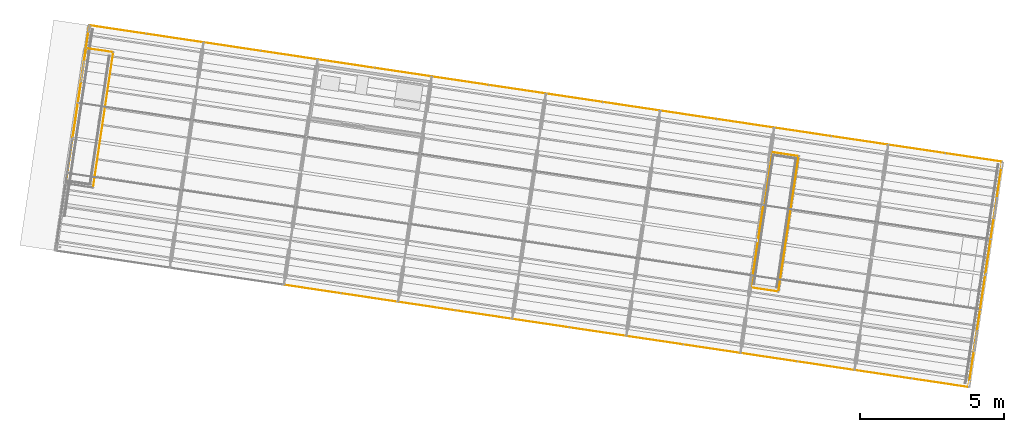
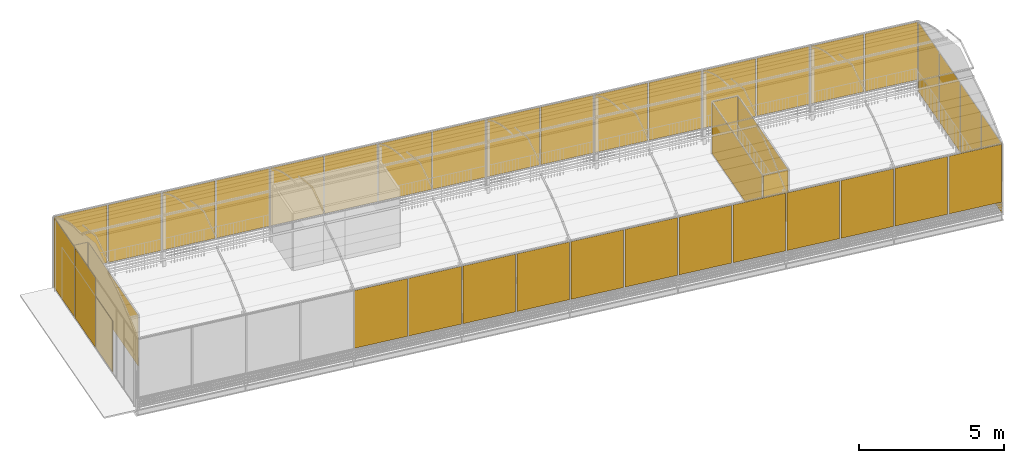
# One storey, part 29 of 34: 39 windows, 2 doors.
"""IFC4 building model written with IfcOpenShell, lengths in metres."""

from ifc_helpers import new_model, si_unit, direction, frame, origin_with_axes, place, context, subcontext, project, spatial, polyline, outline, extrude, material, element, save


model = new_model("IFC4")

# Units and contexts
model_context = context("Model", 3, precision=1e-05, world=origin_with_axes(), true_north=direction((0.0, 1.0)))
body_context = subcontext(model_context, "Body", "Model", "MODEL_VIEW")
ifc_project = project(units=[si_unit("AREAUNIT", "SQUARE_METRE"), si_unit("VOLUMEUNIT", "CUBIC_METRE"), si_unit("LENGTHUNIT", "METRE")], contexts=[model_context])

# Site, building, storey
site_placement = place(None, origin_with_axes())
site = spatial("IfcSite", under=ifc_project, at=site_placement, Name="Lares · Rua das Mercês · artigo 4771")
building_placement = place(site_placement, frame((15.0, 9.7, 14.65), z_axis=(0.0, 0.0, 1.0), x_axis=(0.989015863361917, -0.147809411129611, 0.0)))
building = spatial("IfcBuilding", under=site, at=building_placement, Name="Casa Sobreposta")
storey_placement = place(building_placement, frame((0.0, 0.0, 3.24), z_axis=(0.0, 0.0, 1.0), x_axis=(1.0, 0.0, 0.0)))
storey = spatial("IfcBuildingStorey", under=building, at=storey_placement, Name="01 · Jardim de inverno", Elevation=17.89)

# Windows
ifc_material_1 = material(Name="Policarbonato alveolar 16 mm · translúcido", Category="plastic")
window_1_placement = place(storey_placement, frame((0.0, 0.0, 0.525), z_axis=(0.0, 0.0, 1.0), x_axis=(1.0, 0.0, 0.0)))
element("IfcWindow", 1, at=window_1_placement, inside=storey, material=ifc_material_1, Name="Estufa sul 5", OverallHeight=2.43, OverallWidth=1.95, PartitioningType="SINGLE_PANEL", PredefinedType="WINDOW", context=body_context, shape_type="SweptSolid", body=[
    extrude(outline(polyline([(9.975, -1.496), (9.975, -1.504), (8.025, -1.504), (8.025, -1.496), (9.975, -1.496)])), origin_with_axes(), (0.0, 0.0, 1.0), 2.43),
])
window_2_placement = place(storey_placement, frame((0.0, 0.0, 0.525), z_axis=(0.0, 0.0, 1.0), x_axis=(1.0, 0.0, 0.0)))
element("IfcWindow", 2, at=window_2_placement, inside=storey, material=ifc_material_1, Name="Estufa sul 6", OverallHeight=2.43, OverallWidth=1.95, PartitioningType="SINGLE_PANEL", PredefinedType="WINDOW", context=body_context, shape_type="SweptSolid", body=[
    extrude(outline(polyline([(11.975, -1.496), (11.975, -1.504), (10.025, -1.504), (10.025, -1.496), (11.975, -1.496)])), origin_with_axes(), (0.0, 0.0, 1.0), 2.43),
])
window_3_placement = place(storey_placement, frame((0.0, 0.0, 0.525), z_axis=(0.0, 0.0, 1.0), x_axis=(1.0, 0.0, 0.0)))
element("IfcWindow", 3, at=window_3_placement, inside=storey, material=ifc_material_1, Name="Estufa sul 7", OverallHeight=2.43, OverallWidth=1.95, PartitioningType="SINGLE_PANEL", PredefinedType="WINDOW", context=body_context, shape_type="SweptSolid", body=[
    extrude(outline(polyline([(13.975, -1.496), (13.975, -1.504), (12.025, -1.504), (12.025, -1.496), (13.975, -1.496)])), origin_with_axes(), (0.0, 0.0, 1.0), 2.43),
])
window_4_placement = place(storey_placement, frame((0.0, 0.0, 0.525), z_axis=(0.0, 0.0, 1.0), x_axis=(1.0, 0.0, 0.0)))
element("IfcWindow", 4, at=window_4_placement, inside=storey, material=ifc_material_1, Name="Estufa sul 8", OverallHeight=2.43, OverallWidth=1.95, PartitioningType="SINGLE_PANEL", PredefinedType="WINDOW", context=body_context, shape_type="SweptSolid", body=[
    extrude(outline(polyline([(15.975, -1.496), (15.975, -1.504), (14.025, -1.504), (14.025, -1.496), (15.975, -1.496)])), origin_with_axes(), (0.0, 0.0, 1.0), 2.43),
])
window_5_placement = place(storey_placement, frame((0.0, 0.0, 0.525), z_axis=(0.0, 0.0, 1.0), x_axis=(1.0, 0.0, 0.0)))
element("IfcWindow", 5, at=window_5_placement, inside=storey, material=ifc_material_1, Name="Estufa sul 9", OverallHeight=2.43, OverallWidth=1.95, PartitioningType="SINGLE_PANEL", PredefinedType="WINDOW", context=body_context, shape_type="SweptSolid", body=[
    extrude(outline(polyline([(17.975, -1.496), (17.975, -1.504), (16.025, -1.504), (16.025, -1.496), (17.975, -1.496)])), origin_with_axes(), (0.0, 0.0, 1.0), 2.43),
])
window_6_placement = place(storey_placement, frame((0.0, 0.0, 0.525), z_axis=(0.0, 0.0, 1.0), x_axis=(1.0, 0.0, 0.0)))
element("IfcWindow", 6, at=window_6_placement, inside=storey, material=ifc_material_1, Name="Estufa sul 10", OverallHeight=2.43, OverallWidth=1.95, PartitioningType="SINGLE_PANEL", PredefinedType="WINDOW", context=body_context, shape_type="SweptSolid", body=[
    extrude(outline(polyline([(19.975, -1.496), (19.975, -1.504), (18.025, -1.504), (18.025, -1.496), (19.975, -1.496)])), origin_with_axes(), (0.0, 0.0, 1.0), 2.43),
])
window_7_placement = place(storey_placement, frame((0.0, 0.0, 0.525), z_axis=(0.0, 0.0, 1.0), x_axis=(1.0, 0.0, 0.0)))
element("IfcWindow", 7, at=window_7_placement, inside=storey, material=ifc_material_1, Name="Estufa sul 11", OverallHeight=2.43, OverallWidth=1.95, PartitioningType="SINGLE_PANEL", PredefinedType="WINDOW", context=body_context, shape_type="SweptSolid", body=[
    extrude(outline(polyline([(21.975, -1.496), (21.975, -1.504), (20.025, -1.504), (20.025, -1.496), (21.975, -1.496)])), origin_with_axes(), (0.0, 0.0, 1.0), 2.43),
])
window_8_placement = place(storey_placement, frame((0.0, 0.0, 0.525), z_axis=(0.0, 0.0, 1.0), x_axis=(1.0, 0.0, 0.0)))
element("IfcWindow", 8, at=window_8_placement, inside=storey, material=ifc_material_1, Name="Estufa sul 12", OverallHeight=2.43, OverallWidth=1.95, PartitioningType="SINGLE_PANEL", PredefinedType="WINDOW", context=body_context, shape_type="SweptSolid", body=[
    extrude(outline(polyline([(23.975, -1.496), (23.975, -1.504), (22.025, -1.504), (22.025, -1.496), (23.975, -1.496)])), origin_with_axes(), (0.0, 0.0, 1.0), 2.43),
])
window_9_placement = place(storey_placement, frame((0.0, 0.0, 0.525), z_axis=(0.0, 0.0, 1.0), x_axis=(1.0, 0.0, 0.0)))
element("IfcWindow", 9, at=window_9_placement, inside=storey, material=ifc_material_1, Name="Estufa sul 13", OverallHeight=2.43, OverallWidth=1.95, PartitioningType="SINGLE_PANEL", PredefinedType="WINDOW", context=body_context, shape_type="SweptSolid", body=[
    extrude(outline(polyline([(25.975, -1.496), (25.975, -1.504), (24.025, -1.504), (24.025, -1.496), (25.975, -1.496)])), origin_with_axes(), (0.0, 0.0, 1.0), 2.43),
])
window_10_placement = place(storey_placement, frame((0.0, 0.0, 0.525), z_axis=(0.0, 0.0, 1.0), x_axis=(1.0, 0.0, 0.0)))
element("IfcWindow", 10, at=window_10_placement, inside=storey, material=ifc_material_1, Name="Estufa sul 14", OverallHeight=2.43, OverallWidth=1.95, PartitioningType="SINGLE_PANEL", PredefinedType="WINDOW", context=body_context, shape_type="SweptSolid", body=[
    extrude(outline(polyline([(27.975, -1.496), (27.975, -1.504), (26.025, -1.504), (26.025, -1.496), (27.975, -1.496)])), origin_with_axes(), (0.0, 0.0, 1.0), 2.43),
])
window_11_placement = place(storey_placement, frame((0.0, 0.0, 0.525), z_axis=(0.0, 0.0, 1.0), x_axis=(1.0, 0.0, 0.0)))
element("IfcWindow", 11, at=window_11_placement, inside=storey, material=ifc_material_1, Name="Estufa sul 15", OverallHeight=2.43, OverallWidth=1.95, PartitioningType="SINGLE_PANEL", PredefinedType="WINDOW", context=body_context, shape_type="SweptSolid", body=[
    extrude(outline(polyline([(29.975, -1.496), (29.975, -1.504), (28.025, -1.504), (28.025, -1.496), (29.975, -1.496)])), origin_with_axes(), (0.0, 0.0, 1.0), 2.43),
])
window_12_placement = place(storey_placement, frame((0.0, 0.0, 0.525), z_axis=(0.0, 0.0, 1.0), x_axis=(1.0, 0.0, 0.0)))
element("IfcWindow", 12, at=window_12_placement, inside=storey, material=ifc_material_1, Name="Estufa sul 16", OverallHeight=2.43, OverallWidth=1.95, PartitioningType="SINGLE_PANEL", PredefinedType="WINDOW", context=body_context, shape_type="SweptSolid", body=[
    extrude(outline(polyline([(31.975, -1.496), (31.975, -1.504), (30.025, -1.504), (30.025, -1.496), (31.975, -1.496)])), origin_with_axes(), (0.0, 0.0, 1.0), 2.43),
])
window_13_placement = place(storey_placement, frame((0.0, 0.0, 0.525), z_axis=(0.0, 0.0, 1.0), x_axis=(1.0, 0.0, 0.0)))
element("IfcWindow", 13, at=window_13_placement, inside=storey, material=ifc_material_1, Name="Estufa norte 1", OverallHeight=2.43, OverallWidth=1.95, PartitioningType="SINGLE_PANEL", PredefinedType="WINDOW", context=body_context, shape_type="SweptSolid", body=[
    extrude(outline(polyline([(1.975, 6.404), (1.975, 6.396), (0.025, 6.396), (0.025, 6.404), (1.975, 6.404)])), origin_with_axes(), (0.0, 0.0, 1.0), 2.43),
])
window_14_placement = place(storey_placement, frame((0.0, 0.0, 0.525), z_axis=(0.0, 0.0, 1.0), x_axis=(1.0, 0.0, 0.0)))
element("IfcWindow", 14, at=window_14_placement, inside=storey, material=ifc_material_1, Name="Estufa norte 2", OverallHeight=2.43, OverallWidth=1.95, PartitioningType="SINGLE_PANEL", PredefinedType="WINDOW", context=body_context, shape_type="SweptSolid", body=[
    extrude(outline(polyline([(3.975, 6.404), (3.975, 6.396), (2.025, 6.396), (2.025, 6.404), (3.975, 6.404)])), origin_with_axes(), (0.0, 0.0, 1.0), 2.43),
])
window_15_placement = place(storey_placement, frame((0.0, 0.0, 0.525), z_axis=(0.0, 0.0, 1.0), x_axis=(1.0, 0.0, 0.0)))
element("IfcWindow", 15, at=window_15_placement, inside=storey, material=ifc_material_1, Name="Estufa norte 3", OverallHeight=2.43, OverallWidth=1.95, PartitioningType="SINGLE_PANEL", PredefinedType="WINDOW", context=body_context, shape_type="SweptSolid", body=[
    extrude(outline(polyline([(5.975, 6.404), (5.975, 6.396), (4.025, 6.396), (4.025, 6.404), (5.975, 6.404)])), origin_with_axes(), (0.0, 0.0, 1.0), 2.43),
])
window_16_placement = place(storey_placement, frame((0.0, 0.0, 0.525), z_axis=(0.0, 0.0, 1.0), x_axis=(1.0, 0.0, 0.0)))
element("IfcWindow", 16, at=window_16_placement, inside=storey, material=ifc_material_1, Name="Estufa norte 4", OverallHeight=2.43, OverallWidth=1.95, PartitioningType="SINGLE_PANEL", PredefinedType="WINDOW", context=body_context, shape_type="SweptSolid", body=[
    extrude(outline(polyline([(7.975, 6.404), (7.975, 6.396), (6.025, 6.396), (6.025, 6.404), (7.975, 6.404)])), origin_with_axes(), (0.0, 0.0, 1.0), 2.43),
])
window_17_placement = place(storey_placement, frame((0.0, 0.0, 0.525), z_axis=(0.0, 0.0, 1.0), x_axis=(1.0, 0.0, 0.0)))
element("IfcWindow", 17, at=window_17_placement, inside=storey, material=ifc_material_1, Name="Estufa norte 5", OverallHeight=2.43, OverallWidth=1.95, PartitioningType="SINGLE_PANEL", PredefinedType="WINDOW", context=body_context, shape_type="SweptSolid", body=[
    extrude(outline(polyline([(9.975, 6.404), (9.975, 6.396), (8.025, 6.396), (8.025, 6.404), (9.975, 6.404)])), origin_with_axes(), (0.0, 0.0, 1.0), 2.43),
])
window_18_placement = place(storey_placement, frame((0.0, 0.0, 0.525), z_axis=(0.0, 0.0, 1.0), x_axis=(1.0, 0.0, 0.0)))
element("IfcWindow", 18, at=window_18_placement, inside=storey, material=ifc_material_1, Name="Estufa norte 6", OverallHeight=2.43, OverallWidth=1.95, PartitioningType="SINGLE_PANEL", PredefinedType="WINDOW", context=body_context, shape_type="SweptSolid", body=[
    extrude(outline(polyline([(11.975, 6.404), (11.975, 6.396), (10.025, 6.396), (10.025, 6.404), (11.975, 6.404)])), origin_with_axes(), (0.0, 0.0, 1.0), 2.43),
])
window_19_placement = place(storey_placement, frame((0.0, 0.0, 0.525), z_axis=(0.0, 0.0, 1.0), x_axis=(1.0, 0.0, 0.0)))
element("IfcWindow", 19, at=window_19_placement, inside=storey, material=ifc_material_1, Name="Estufa norte 7", OverallHeight=2.43, OverallWidth=1.95, PartitioningType="SINGLE_PANEL", PredefinedType="WINDOW", context=body_context, shape_type="SweptSolid", body=[
    extrude(outline(polyline([(13.975, 6.404), (13.975, 6.396), (12.025, 6.396), (12.025, 6.404), (13.975, 6.404)])), origin_with_axes(), (0.0, 0.0, 1.0), 2.43),
])
window_20_placement = place(storey_placement, frame((0.0, 0.0, 0.525), z_axis=(0.0, 0.0, 1.0), x_axis=(1.0, 0.0, 0.0)))
element("IfcWindow", 20, at=window_20_placement, inside=storey, material=ifc_material_1, Name="Estufa norte 8", OverallHeight=2.43, OverallWidth=1.95, PartitioningType="SINGLE_PANEL", PredefinedType="WINDOW", context=body_context, shape_type="SweptSolid", body=[
    extrude(outline(polyline([(15.975, 6.404), (15.975, 6.396), (14.025, 6.396), (14.025, 6.404), (15.975, 6.404)])), origin_with_axes(), (0.0, 0.0, 1.0), 2.43),
])
window_21_placement = place(storey_placement, frame((0.0, 0.0, 0.525), z_axis=(0.0, 0.0, 1.0), x_axis=(1.0, 0.0, 0.0)))
element("IfcWindow", 21, at=window_21_placement, inside=storey, material=ifc_material_1, Name="Estufa norte 9", OverallHeight=2.43, OverallWidth=1.95, PartitioningType="SINGLE_PANEL", PredefinedType="WINDOW", context=body_context, shape_type="SweptSolid", body=[
    extrude(outline(polyline([(17.975, 6.404), (17.975, 6.396), (16.025, 6.396), (16.025, 6.404), (17.975, 6.404)])), origin_with_axes(), (0.0, 0.0, 1.0), 2.43),
])
window_22_placement = place(storey_placement, frame((0.0, 0.0, 0.525), z_axis=(0.0, 0.0, 1.0), x_axis=(1.0, 0.0, 0.0)))
element("IfcWindow", 22, at=window_22_placement, inside=storey, material=ifc_material_1, Name="Estufa norte 10", OverallHeight=2.43, OverallWidth=1.95, PartitioningType="SINGLE_PANEL", PredefinedType="WINDOW", context=body_context, shape_type="SweptSolid", body=[
    extrude(outline(polyline([(19.975, 6.404), (19.975, 6.396), (18.025, 6.396), (18.025, 6.404), (19.975, 6.404)])), origin_with_axes(), (0.0, 0.0, 1.0), 2.43),
])
window_23_placement = place(storey_placement, frame((0.0, 0.0, 0.525), z_axis=(0.0, 0.0, 1.0), x_axis=(1.0, 0.0, 0.0)))
element("IfcWindow", 23, at=window_23_placement, inside=storey, material=ifc_material_1, Name="Estufa norte 11", OverallHeight=2.43, OverallWidth=1.95, PartitioningType="SINGLE_PANEL", PredefinedType="WINDOW", context=body_context, shape_type="SweptSolid", body=[
    extrude(outline(polyline([(21.975, 6.404), (21.975, 6.396), (20.025, 6.396), (20.025, 6.404), (21.975, 6.404)])), origin_with_axes(), (0.0, 0.0, 1.0), 2.43),
])
window_24_placement = place(storey_placement, frame((0.0, 0.0, 0.525), z_axis=(0.0, 0.0, 1.0), x_axis=(1.0, 0.0, 0.0)))
element("IfcWindow", 24, at=window_24_placement, inside=storey, material=ifc_material_1, Name="Estufa norte 12", OverallHeight=2.43, OverallWidth=1.95, PartitioningType="SINGLE_PANEL", PredefinedType="WINDOW", context=body_context, shape_type="SweptSolid", body=[
    extrude(outline(polyline([(23.975, 6.404), (23.975, 6.396), (22.025, 6.396), (22.025, 6.404), (23.975, 6.404)])), origin_with_axes(), (0.0, 0.0, 1.0), 2.43),
])
window_25_placement = place(storey_placement, frame((0.0, 0.0, 0.525), z_axis=(0.0, 0.0, 1.0), x_axis=(1.0, 0.0, 0.0)))
element("IfcWindow", 25, at=window_25_placement, inside=storey, material=ifc_material_1, Name="Estufa norte 13", OverallHeight=2.43, OverallWidth=1.95, PartitioningType="SINGLE_PANEL", PredefinedType="WINDOW", context=body_context, shape_type="SweptSolid", body=[
    extrude(outline(polyline([(25.975, 6.404), (25.975, 6.396), (24.025, 6.396), (24.025, 6.404), (25.975, 6.404)])), origin_with_axes(), (0.0, 0.0, 1.0), 2.43),
])
window_26_placement = place(storey_placement, frame((0.0, 0.0, 0.525), z_axis=(0.0, 0.0, 1.0), x_axis=(1.0, 0.0, 0.0)))
element("IfcWindow", 26, at=window_26_placement, inside=storey, material=ifc_material_1, Name="Estufa norte 14", OverallHeight=2.43, OverallWidth=1.95, PartitioningType="SINGLE_PANEL", PredefinedType="WINDOW", context=body_context, shape_type="SweptSolid", body=[
    extrude(outline(polyline([(27.975, 6.404), (27.975, 6.396), (26.025, 6.396), (26.025, 6.404), (27.975, 6.404)])), origin_with_axes(), (0.0, 0.0, 1.0), 2.43),
])
window_27_placement = place(storey_placement, frame((0.0, 0.0, 0.525), z_axis=(0.0, 0.0, 1.0), x_axis=(1.0, 0.0, 0.0)))
element("IfcWindow", 27, at=window_27_placement, inside=storey, material=ifc_material_1, Name="Estufa norte 15", OverallHeight=2.43, OverallWidth=1.95, PartitioningType="SINGLE_PANEL", PredefinedType="WINDOW", context=body_context, shape_type="SweptSolid", body=[
    extrude(outline(polyline([(29.975, 6.404), (29.975, 6.396), (28.025, 6.396), (28.025, 6.404), (29.975, 6.404)])), origin_with_axes(), (0.0, 0.0, 1.0), 2.43),
])
window_28_placement = place(storey_placement, frame((0.0, 0.0, 0.525), z_axis=(0.0, 0.0, 1.0), x_axis=(1.0, 0.0, 0.0)))
element("IfcWindow", 28, at=window_28_placement, inside=storey, material=ifc_material_1, Name="Estufa norte 16", OverallHeight=2.43, OverallWidth=1.95, PartitioningType="SINGLE_PANEL", PredefinedType="WINDOW", context=body_context, shape_type="SweptSolid", body=[
    extrude(outline(polyline([(31.975, 6.404), (31.975, 6.396), (30.025, 6.396), (30.025, 6.404), (31.975, 6.404)])), origin_with_axes(), (0.0, 0.0, 1.0), 2.43),
])
window_29_placement = place(storey_placement, frame((0.0, 0.0, 0.0249999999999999), z_axis=(0.0, 0.0, 1.0), x_axis=(1.0, 0.0, 0.0)))
element("IfcWindow", 29, at=window_29_placement, inside=storey, material=ifc_material_1, Name="Estufa poente 3", OverallHeight=2.93, OverallWidth=1.925, PartitioningType="SINGLE_PANEL", PredefinedType="WINDOW", context=body_context, shape_type="SweptSolid", body=[
    extrude(outline(polyline([(-0.004, 4.4), (0.004, 4.4), (0.004, 2.475), (-0.004, 2.475), (-0.004, 4.4)])), origin_with_axes(), (0.0, 0.0, 1.0), 2.93),
])
window_30_placement = place(storey_placement, frame((0.0, 0.0, 0.0249999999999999), z_axis=(0.0, 0.0, 1.0), x_axis=(1.0, 0.0, 0.0)))
element("IfcWindow", 30, at=window_30_placement, inside=storey, material=ifc_material_1, Name="Estufa poente 4", OverallHeight=2.93, OverallWidth=1.925, PartitioningType="SINGLE_PANEL", PredefinedType="WINDOW", context=body_context, shape_type="SweptSolid", body=[
    extrude(outline(polyline([(-0.004, 6.375), (0.004, 6.375), (0.004, 4.45), (-0.004, 4.45), (-0.004, 6.375)])), origin_with_axes(), (0.0, 0.0, 1.0), 2.93),
])
window_31_placement = place(storey_placement, frame((0.0, 0.0, 0.0249999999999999), z_axis=(0.0, 0.0, 1.0), x_axis=(1.0, 0.0, 0.0)))
element("IfcWindow", 31, at=window_31_placement, inside=storey, material=ifc_material_1, Name="Estufa nascente 1", OverallHeight=2.93, OverallWidth=1.925, PartitioningType="SINGLE_PANEL", PredefinedType="WINDOW", context=body_context, shape_type="SweptSolid", body=[
    extrude(outline(polyline([(31.996, 0.45), (32.004, 0.45), (32.004, -1.475), (31.996, -1.475), (31.996, 0.45)])), origin_with_axes(), (0.0, 0.0, 1.0), 2.93),
])
window_32_placement = place(storey_placement, frame((0.0, 0.0, 0.0249999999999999), z_axis=(0.0, 0.0, 1.0), x_axis=(1.0, 0.0, 0.0)))
element("IfcWindow", 32, at=window_32_placement, inside=storey, material=ifc_material_1, Name="Estufa nascente 2", OverallHeight=2.93, OverallWidth=1.925, PartitioningType="SINGLE_PANEL", PredefinedType="WINDOW", context=body_context, shape_type="SweptSolid", body=[
    extrude(outline(polyline([(31.996, 2.425), (32.004, 2.425), (32.004, 0.5), (31.996, 0.5), (31.996, 2.425)])), origin_with_axes(), (0.0, 0.0, 1.0), 2.93),
])
window_33_placement = place(storey_placement, frame((0.0, 0.0, 0.0249999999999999), z_axis=(0.0, 0.0, 1.0), x_axis=(1.0, 0.0, 0.0)))
element("IfcWindow", 33, at=window_33_placement, inside=storey, material=ifc_material_1, Name="Estufa nascente 3", OverallHeight=2.93, OverallWidth=1.925, PartitioningType="SINGLE_PANEL", PredefinedType="WINDOW", context=body_context, shape_type="SweptSolid", body=[
    extrude(outline(polyline([(31.996, 4.4), (32.004, 4.4), (32.004, 2.475), (31.996, 2.475), (31.996, 4.4)])), origin_with_axes(), (0.0, 0.0, 1.0), 2.93),
])
window_34_placement = place(storey_placement, frame((0.0, 0.0, 0.0249999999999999), z_axis=(0.0, 0.0, 1.0), x_axis=(1.0, 0.0, 0.0)))
element("IfcWindow", 34, at=window_34_placement, inside=storey, material=ifc_material_1, Name="Estufa nascente 4", OverallHeight=2.93, OverallWidth=1.925, PartitioningType="SINGLE_PANEL", PredefinedType="WINDOW", context=body_context, shape_type="SweptSolid", body=[
    extrude(outline(polyline([(31.996, 6.375), (32.004, 6.375), (32.004, 4.45), (31.996, 4.45), (31.996, 6.375)])), origin_with_axes(), (0.0, 0.0, 1.0), 2.93),
])
ifc_material_2 = material(Name="Vidro / Normalglas", Category="glass")
window_35_placement = place(storey_placement, frame((0.0, 0.0, 0.0249999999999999), z_axis=(0.0, 0.0, 1.0), x_axis=(1.0, 0.0, 0.0)))
element("IfcWindow", 35, at=window_35_placement, inside=storey, material=ifc_material_2, Name="Caixa térmica 1 · west", OverallHeight=2.15, OverallWidth=4.7, PartitioningType="SINGLE_PANEL", PredefinedType="WINDOW", context=body_context, shape_type="SweptSolid", body=[
    extrude(outline(polyline([(0.006, 5.575), (0.014, 5.575), (0.014, 0.875), (0.006, 0.875), (0.006, 5.575)])), origin_with_axes(), (0.0, 0.0, 1.0), 2.15),
])
window_36_placement = place(storey_placement, frame((0.0, 0.0, 0.0249999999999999), z_axis=(0.0, 0.0, 1.0), x_axis=(1.0, 0.0, 0.0)))
element("IfcWindow", 36, at=window_36_placement, inside=storey, material=ifc_material_2, Name="Caixa térmica 1 · east", OverallHeight=2.15, OverallWidth=4.7, PartitioningType="SINGLE_PANEL", PredefinedType="WINDOW", context=body_context, shape_type="SweptSolid", body=[
    extrude(outline(polyline([(0.956, 5.575), (0.964, 5.575), (0.964, 0.875), (0.956, 0.875), (0.956, 5.575)])), origin_with_axes(), (0.0, 0.0, 1.0), 2.15),
])

# Door
door_1_placement = place(storey_placement, frame((0.0, 0.0, 0.0249999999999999), z_axis=(0.0, 0.0, 1.0), x_axis=(1.0, 0.0, 0.0)))
element("IfcDoor", 37, at=door_1_placement, inside=storey, material=ifc_material_2, Name="Caixa térmica 1 · north", OperationType="SLIDING_TO_LEFT", OverallHeight=2.15, OverallWidth=0.9, PredefinedType="DOOR", context=body_context, shape_type="SweptSolid", body=[
    extrude(outline(polyline([(0.935, 5.604), (0.935, 5.596), (0.035, 5.596), (0.035, 5.604), (0.935, 5.604)])), origin_with_axes(), (0.0, 0.0, 1.0), 2.15),
])

# Windows
window_37_placement = place(storey_placement, frame((0.0, 0.0, 0.0249999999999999), z_axis=(0.0, 0.0, 1.0), x_axis=(1.0, 0.0, 0.0)))
element("IfcWindow", 38, at=window_37_placement, inside=storey, material=ifc_material_2, Name="Caixa térmica 2 · west", OverallHeight=2.15, OverallWidth=4.7, PartitioningType="SINGLE_PANEL", PredefinedType="WINDOW", context=body_context, shape_type="SweptSolid", body=[
    extrude(outline(polyline([(24.026, 5.525), (24.034, 5.525), (24.034, 0.825), (24.026, 0.825), (24.026, 5.525)])), origin_with_axes(), (0.0, 0.0, 1.0), 2.15),
])
window_38_placement = place(storey_placement, frame((0.0, 0.0, 0.0249999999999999), z_axis=(0.0, 0.0, 1.0), x_axis=(1.0, 0.0, 0.0)))
element("IfcWindow", 39, at=window_38_placement, inside=storey, material=ifc_material_2, Name="Caixa térmica 2 · east", OverallHeight=2.15, OverallWidth=4.7, PartitioningType="SINGLE_PANEL", PredefinedType="WINDOW", context=body_context, shape_type="SweptSolid", body=[
    extrude(outline(polyline([(24.986, 5.525), (24.994, 5.525), (24.994, 0.825), (24.986, 0.825), (24.986, 5.525)])), origin_with_axes(), (0.0, 0.0, 1.0), 2.15),
])

# Door
door_2_placement = place(storey_placement, frame((0.0, 0.0, 0.0249999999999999), z_axis=(0.0, 0.0, 1.0), x_axis=(1.0, 0.0, 0.0)))
element("IfcDoor", 40, at=door_2_placement, inside=storey, material=ifc_material_2, Name="Caixa térmica 2 · south", OperationType="SLIDING_TO_LEFT", OverallHeight=2.15, OverallWidth=0.910000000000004, PredefinedType="DOOR", context=body_context, shape_type="SweptSolid", body=[
    extrude(outline(polyline([(24.965, 0.804), (24.965, 0.796), (24.055, 0.796), (24.055, 0.804), (24.965, 0.804)])), origin_with_axes(), (0.0, 0.0, 1.0), 2.15),
])

# Window
window_39_placement = place(storey_placement, frame((0.0, 0.0, 0.0249999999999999), z_axis=(0.0, 0.0, 1.0), x_axis=(1.0, 0.0, 0.0)))
element("IfcWindow", 41, at=window_39_placement, inside=storey, material=ifc_material_2, Name="Caixa térmica 2 · north", OverallHeight=2.15, OverallWidth=0.910000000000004, PartitioningType="SINGLE_PANEL", PredefinedType="WINDOW", context=body_context, shape_type="SweptSolid", body=[
    extrude(outline(polyline([(24.965, 5.554), (24.965, 5.546), (24.055, 5.546), (24.055, 5.554), (24.965, 5.554)])), origin_with_axes(), (0.0, 0.0, 1.0), 2.15),
])

save(model, "model.ifc")
